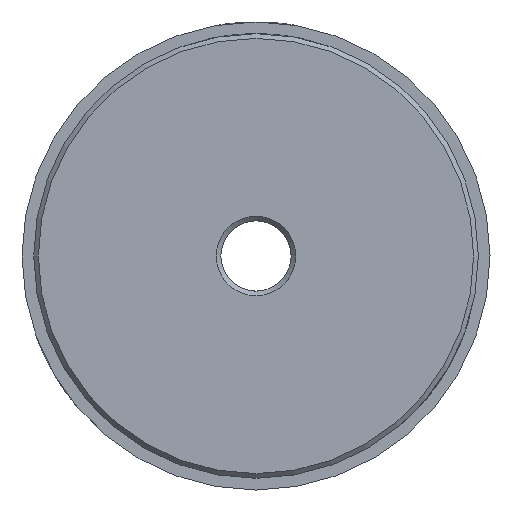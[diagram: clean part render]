
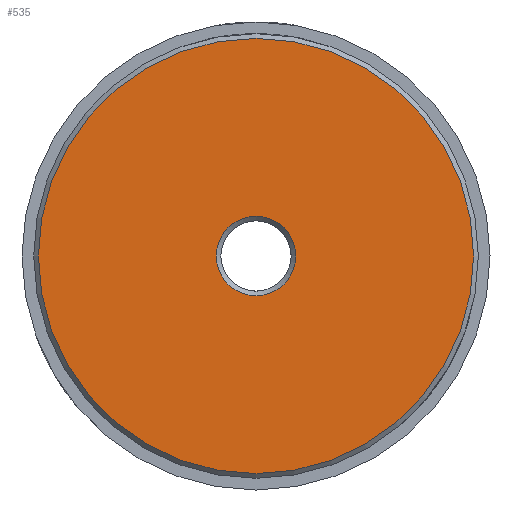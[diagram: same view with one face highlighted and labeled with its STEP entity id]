
A CAD part, left-side view. The second image highlights one B-rep face of the part: STEP entity #535.
In plain terms, the highlighted planar face has unit normal (-1, 0, 0).
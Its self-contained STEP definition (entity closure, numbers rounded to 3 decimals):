
#535 = ADVANCED_FACE( 'NONE', ( #1122, #1123 ), #1124, .F. );
#1122 = FACE_OUTER_BOUND( '', #1739, .T. );
#1123 = FACE_BOUND( '', #1740, .T. );
#1124 = PLANE( '', #1741 );
#1739 = EDGE_LOOP( '', ( #2742 ) );
#1740 = EDGE_LOOP( '', ( #2743 ) );
#1741 = AXIS2_PLACEMENT_3D( '', #2744, #2745, #2746 );
#2742 = ORIENTED_EDGE( '', *, *, #3372, .T. );
#2743 = ORIENTED_EDGE( '', *, *, #3407, .T. );
#2744 = CARTESIAN_POINT( '', ( 0., 9.5, 0. ) );
#2745 = DIRECTION( '', ( 1., 0., 0. ) );
#2746 = DIRECTION( '', ( 0., 1., 0. ) );
#3372 = EDGE_CURVE( 'NONE', #3967, #3967, #3968, .F. );
#3407 = EDGE_CURVE( 'NONE', #4010, #4010, #4011, .T. );
#3967 = VERTEX_POINT( '', #5054 );
#3968 = CIRCLE( '', #5055, 9.3 );
#4010 = VERTEX_POINT( '', #5102 );
#4011 = CIRCLE( '', #5103, 1.7 );
#5054 = CARTESIAN_POINT( '', ( 0., 0., -9.3 ) );
#5055 = AXIS2_PLACEMENT_3D( '', #5687, #5688, #5689 );
#5102 = CARTESIAN_POINT( '', ( 0., 0., -1.7 ) );
#5103 = AXIS2_PLACEMENT_3D( '', #5722, #5723, #5724 );
#5687 = CARTESIAN_POINT( '', ( 0., 0., 0. ) );
#5688 = DIRECTION( '', ( 1., 0., 0. ) );
#5689 = DIRECTION( '', ( 0., 0., -1. ) );
#5722 = CARTESIAN_POINT( '', ( 0., 0., 0. ) );
#5723 = DIRECTION( '', ( 1., 0., 0. ) );
#5724 = DIRECTION( '', ( 0., 0., -1. ) );
